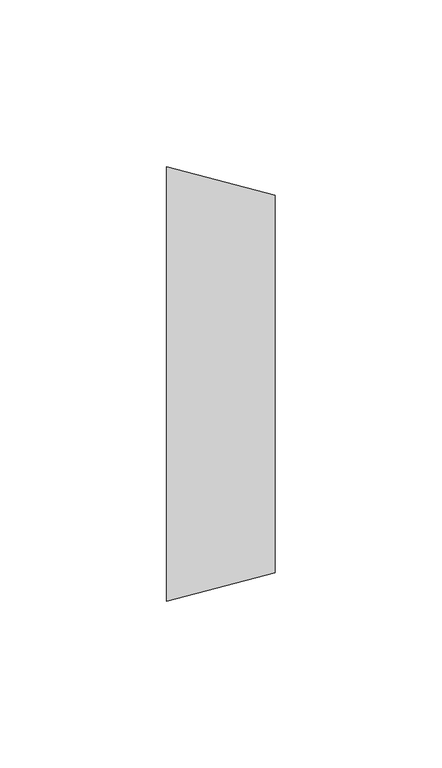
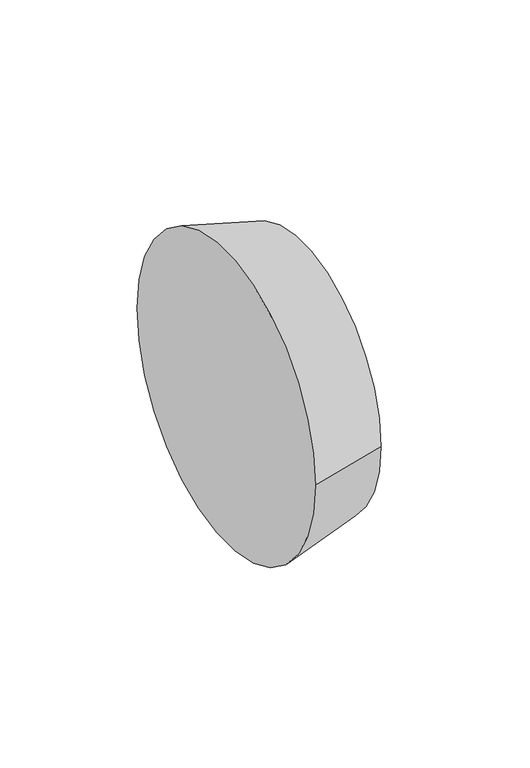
"""IFC4 building model written with IfcOpenShell, lengths in millimetres: pipe fitting geometry, M_Transición - Genérica : Estándar."""

from ifc_helpers import new_model, si_unit, frame, origin, place, context, project, spatial, circle_curve, source, transform, mapped, element, save
from ifc_brep_helpers import plane_surface, spline_surface, advanced_brep


def pipe_fitting_cff5e954(model_context):
    return source(origin(), model_context, "Body", "AdvancedBrep", [
        advanced_brep(
        [(32.54375, -56.5842948, 0.7007439), (32.54375, 56.5907052, 0.7007439), (0.0, -65.0875, 0.0), (0.0, 65.0875, 0.0)],
        [
            (0, 1, circle_curve(frame((32.54375, 0.0032052, 0.7007439), z_axis=(1.0, 0.0, 0.0), x_axis=(0.0, 1.0, 0.0)), 56.5875)),
            (1, 0, circle_curve(frame((32.54375, 0.0032052, 0.7007439), z_axis=(1.0, 0.0, 0.0), x_axis=(0.0, 1.0, 0.0)), 56.5875)),
            (2, 3, circle_curve(frame((0.0, 0.0, 0.0), z_axis=(-1.0, 0.0, 0.0), x_axis=(0.0, 1.0, 0.0)), 65.0875)),
            (3, 2, circle_curve(frame((0.0, 0.0, 0.0), z_axis=(-1.0, 0.0, 0.0), x_axis=(0.0, 1.0, 0.0)), 65.0875)),
            (3, 1),
            (0, 2),
        ],
        [
            plane_surface(frame((32.54375, 0.0032052, 0.7007439), z_axis=(1.0, 0.0, 0.0), x_axis=(0.0, 0.0, -1.0))),
            plane_surface(frame((0.0, 0.0, 0.0), z_axis=(-1.0, 0.0, 0.0), x_axis=(0.0, 0.0, -1.0))),
            spline_surface(2, 1, [[(0.0, -65.0875, 0.0), (32.54375, -56.5842948, 0.7007439)], [(0.0, -65.0875, -65.0875), (32.54375, -56.5842948, -55.8867561)], [(0.0, 0.0, -65.0875), (32.54375, 0.0032052, -55.8867561)], [(0.0, 65.0875, -65.0875), (32.54375, 56.590705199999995, -55.8867561)], [(0.0, 65.0875, 0.0), (32.54375, 56.5907052, 0.7007439)]], [3, 2, 3], [2, 2], [0.0, 1.0, 2.0], [0.0, 1.0], weights=[[1.0, 1.0], [0.7071067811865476, 0.7071067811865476], [1.0, 1.0], [0.7071067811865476, 0.7071067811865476], [1.0, 1.0]]),
            spline_surface(2, 1, [[(0.0, 65.0875, 0.0), (32.54375, 56.5907052, 0.7007439)], [(0.0, 65.0875, 65.0875), (32.54375, 56.5907052, 57.288243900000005)], [(0.0, 0.0, 65.0875), (32.54375, 0.0032052, 57.288243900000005)], [(0.0, -65.0875, 65.0875), (32.54375, -56.58429480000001, 57.288243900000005)], [(0.0, -65.0875, 0.0), (32.54375, -56.5842948, 0.7007439)]], [3, 2, 3], [2, 2], [0.0, 1.0, 2.0], [0.0, 1.0], weights=[[1.0, 1.0], [0.7071067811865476, 0.7071067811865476], [1.0, 1.0], [0.7071067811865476, 0.7071067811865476], [1.0, 1.0]]),
        ],
        [
            (0, [[1, 2]]),
            (1, [[3, 4]]),
            (2, [[-4, 5, -1, 6]]),
            (3, [[-3, -6, -2, -5]]),
        ],
    ),
    ])


if __name__ == "__main__":
    model = new_model("IFC4")
    model_context = context("Model", 3, world=origin())
    ifc_project = project(units=[si_unit("LENGTHUNIT", "METRE", prefix="MILLI")], contexts=[model_context])
    site = spatial("IfcSite", under=ifc_project)
    building = spatial("IfcBuilding", under=site)
    placement = place(None, origin())
    pipe_fitting_shape = pipe_fitting_cff5e954(model_context)
    element("IfcPipeFitting", 1, ObjectType="M_Transición - Genérica : Estándar", at=placement, inside=building, context=model_context, shape_type="MappedRepresentation", body=[
        mapped(pipe_fitting_shape, transform((0.0, 0.0, 0.0), x_axis=(1.0, 0.0, 0.0), y_axis=(0.0, 1.0, 0.0), z_axis=(0.0, 0.0, 1.0))),
    ])
    save(model, "model.ifc")
